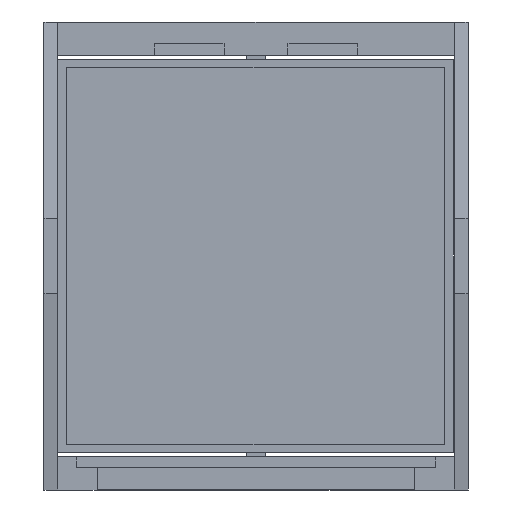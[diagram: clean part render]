
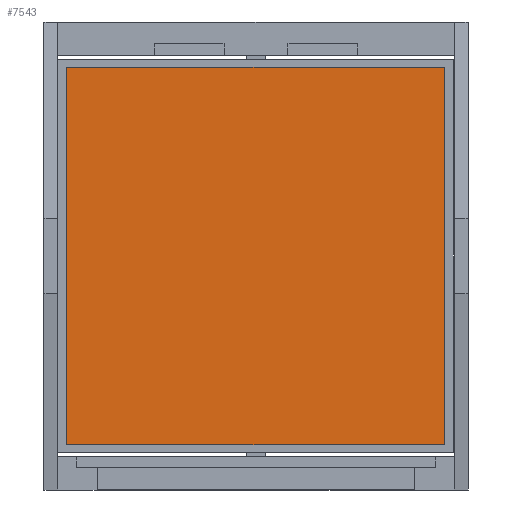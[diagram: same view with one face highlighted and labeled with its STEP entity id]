
A CAD part, front view. The second image highlights one B-rep face of the part: STEP entity #7543.
In plain terms, the highlighted planar face has unit normal (0, -1, 0).
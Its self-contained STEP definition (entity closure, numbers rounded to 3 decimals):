
#240 = EDGE_CURVE ( 'NONE', #3910, #4859, #432, .T. ) ;
#432 = LINE ( 'NONE', #6112, #8523 ) ;
#637 = AXIS2_PLACEMENT_3D ( 'NONE', #1006, #9178, #3140 ) ;
#751 = CARTESIAN_POINT ( 'NONE',  ( -13.476, -2.324, -20.423 ) ) ;
#906 = ORIENTED_EDGE ( 'NONE', *, *, #2766, .F. ) ;
#1006 = CARTESIAN_POINT ( 'NONE',  ( -13.476, -2.324, 17.577 ) ) ;
#2766 = EDGE_CURVE ( 'NONE', #2778, #8172, #3602, .T. ) ;
#2774 = EDGE_CURVE ( 'NONE', #4859, #2778, #3109, .T. ) ;
#2778 = VERTEX_POINT ( 'NONE', #4709 ) ;
#2965 = VECTOR ( 'NONE', #8706, 1000. ) ;
#2996 = FACE_OUTER_BOUND ( 'NONE', #3451, .T. ) ;
#3006 = CARTESIAN_POINT ( 'NONE',  ( -13.476, -2.324, 17.577 ) ) ;
#3109 = LINE ( 'NONE', #5297, #5530 ) ;
#3140 = DIRECTION ( 'NONE',  ( 0., 0., 1. ) ) ;
#3451 = EDGE_LOOP ( 'NONE', ( #4425, #906, #9122, #5601 ) ) ;
#3602 = LINE ( 'NONE', #5351, #4602 ) ;
#3910 = VERTEX_POINT ( 'NONE', #3006 ) ;
#3986 = DIRECTION ( 'NONE',  ( -1., 0., 0. ) ) ;
#4425 = ORIENTED_EDGE ( 'NONE', *, *, #5040, .F. ) ;
#4602 = VECTOR ( 'NONE', #3986, 1000. ) ;
#4709 = CARTESIAN_POINT ( 'NONE',  ( 24.524, -2.324, -20.423 ) ) ;
#4859 = VERTEX_POINT ( 'NONE', #9446 ) ;
#5040 = EDGE_CURVE ( 'NONE', #8172, #3910, #6652, .T. ) ;
#5297 = CARTESIAN_POINT ( 'NONE',  ( 24.524, -2.324, -20.423 ) ) ;
#5351 = CARTESIAN_POINT ( 'NONE',  ( -13.476, -2.324, -20.423 ) ) ;
#5436 = CARTESIAN_POINT ( 'NONE',  ( -13.476, -2.324, -20.423 ) ) ;
#5530 = VECTOR ( 'NONE', #6062, 1000. ) ;
#5601 = ORIENTED_EDGE ( 'NONE', *, *, #240, .F. ) ;
#5944 = PLANE ( 'NONE',  #637 ) ;
#6062 = DIRECTION ( 'NONE',  ( 0., 0., -1. ) ) ;
#6112 = CARTESIAN_POINT ( 'NONE',  ( -13.476, -2.324, 17.577 ) ) ;
#6652 = LINE ( 'NONE', #751, #2965 ) ;
#7543 = ADVANCED_FACE ( 'NONE', ( #2996 ), #5944, .F. ) ;
#8172 = VERTEX_POINT ( 'NONE', #5436 ) ;
#8523 = VECTOR ( 'NONE', #9055, 1000. ) ;
#8706 = DIRECTION ( 'NONE',  ( 0., 0., 1. ) ) ;
#9055 = DIRECTION ( 'NONE',  ( 1., 0., 0. ) ) ;
#9122 = ORIENTED_EDGE ( 'NONE', *, *, #2774, .F. ) ;
#9178 = DIRECTION ( 'NONE',  ( 0., 1., 0. ) ) ;
#9446 = CARTESIAN_POINT ( 'NONE',  ( 24.524, -2.324, 17.577 ) ) ;
